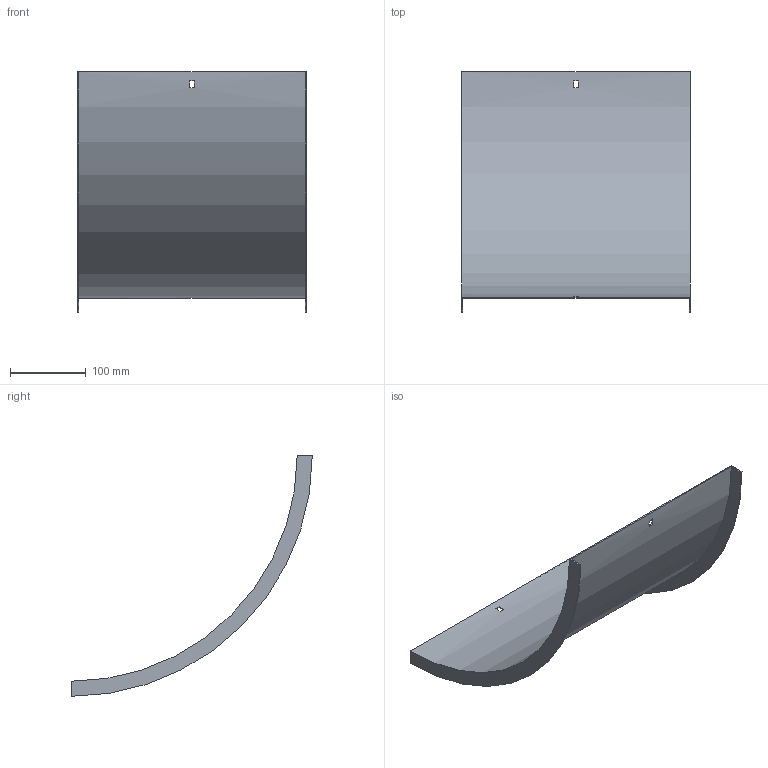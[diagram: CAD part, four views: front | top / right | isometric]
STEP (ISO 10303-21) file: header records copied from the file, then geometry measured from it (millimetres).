
FILE_DESCRIPTION (( 'STEP AP214' ), '1' );
FILE_NAME ('B2X30N3R300X.step', '2025-03-20T09:46:58', ( '' ), ( '' ), 'SwSTEP 2.0', 'SolidWorks 2023', '' );
FILE_SCHEMA (( 'AUTOMOTIVE_DESIGN' ));
Length unit declared in the file: millimetre
Products named in the file (1): B2X30N3R300X
Bounding box: 303 x 318.5 x 318.5 mm (x, y, z)
Volume: 240427 mm3; surface area: 323179.9 mm2
Topology: 1 solids, 1 shells, 18 faces, 48 edges, 32 vertices
Faces by surface type: plane 14, cylinder 4
Entity records: 599 total; most frequent: DIRECTION 102, CARTESIAN_POINT 99, ORIENTED_EDGE 96, EDGE_CURVE 48, AXIS2_PLACEMENT_3D 35, VERTEX_POINT 32, VECTOR 32, LINE 32
